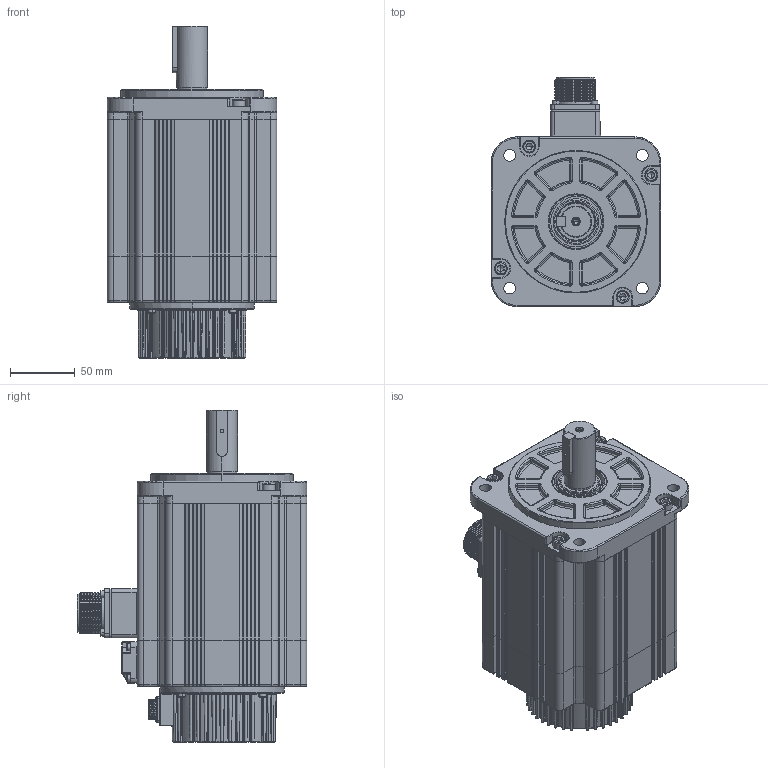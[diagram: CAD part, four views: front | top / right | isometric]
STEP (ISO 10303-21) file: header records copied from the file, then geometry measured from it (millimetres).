
FILE_DESCRIPTION (( 'STEP AP214' ), '1' );
FILE_NAME ('V7E-M13D-1R815-¡õ2.STEP', '2022-02-11T05:41:31', ( '' ), ( '' ), 'SwSTEP 2.0', 'SolidWorks 2014', '' );
FILE_SCHEMA (( 'AUTOMOTIVE_DESIGN' ));
Length unit declared in the file: millimetre
Products named in the file (20): 囀鞠褒 M6X20; 坋趼攫芛 M2X8; V7-130#转子组件（不带刹车）; 价陬揤盄裔200912; SC瑤諾脣芛 16M-9H; V7-130#定子组件（不带刹车）; 雄薯瑤脣釱200909; SC晤鎢ん欶200908_9郋; 130陔ヶ傷裔200902; 粣200907; 130陔ヶ傷裔200917; 囀鞠褒 M3X30; SC瑤諾脣芛 MS3102A20-18P; 蚐猾 D00B999YF7-TC 30-42-7; SC綴傷裔200903-4晚源倛; V7E-M13D-1R815-¡õ2; 囀鞠褒 M3X10; 零件1^V7-130#电机组件（不带刹车）200927; 囀鞠褒 M3X8; 儂褲200901
Assembly tree (34 placements, depth 4):
  V7E-M13D-1R815-¡õ2
    V7-130#定子组件（不带刹车）
      囀鞠褒 M6X20  x4
      130陔ヶ傷裔200917
        130陔ヶ傷裔200902
    V7-130#转子组件（不带刹车）
      粣200907
    SC瑤諾脣芛 16M-9H
    SC晤鎢ん欶200908_9郋
    囀鞠褒 M3X10  x4
    坋趼攫芛 M2X8  x4
    蚐猾 D00B999YF7-TC 30-42-7
    零件1^V7-130#电机组件（不带刹车）200927
    儂褲200901
    雄薯瑤脣釱200909
    SC綴傷裔200903-4晚源倛
    SC瑤諾脣芛 MS3102A20-18P
    价陬揤盄裔200912
    囀鞠褒 M3X8  x4
    囀鞠褒 M3X30  x4
Bounding box: 131 x 177.3 x 256.2 mm (x, y, z)
Volume: 933501.6 mm3; surface area: 344954.8 mm2
Topology: 32 solids, 32 shells, 3276 faces, 7912 edges, 4597 vertices
Faces by surface type: cylinder 1251, plane 792, torus 453, bspline 313, cone 311, sphere 156
Entity records: 135167 total; most frequent: CARTESIAN_POINT 37310, DIRECTION 14006, ORIENTED_EDGE 13644, EDGE_CURVE 6822, AXIS2_PLACEMENT_3D 5725, VERTEX_POINT 4049, EDGE_LOOP 3131, CIRCLE 3067
